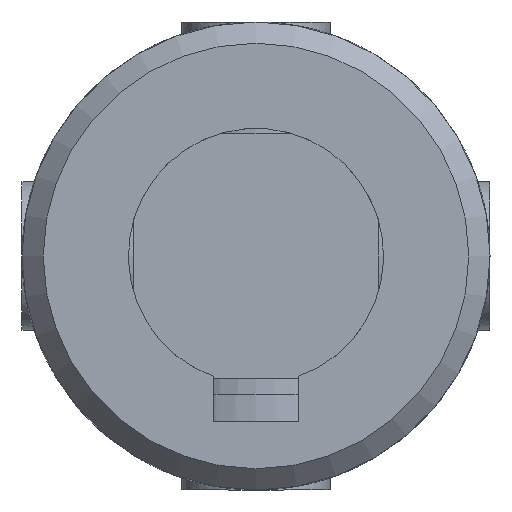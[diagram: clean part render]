
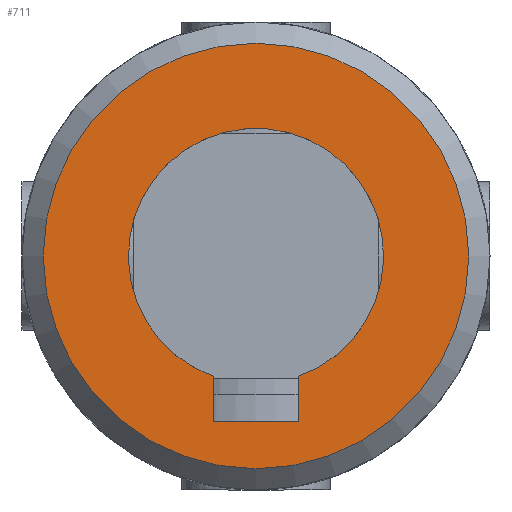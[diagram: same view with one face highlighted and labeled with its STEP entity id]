
A CAD part, front view. The second image highlights one B-rep face of the part: STEP entity #711.
In plain terms, the highlighted planar face has unit normal (0, -1, 0).
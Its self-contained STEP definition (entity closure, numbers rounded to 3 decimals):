
#81=LINE('',#1092,#112);
#85=LINE('',#1164,#116);
#86=LINE('',#1167,#117);
#112=VECTOR('',#891,2.143);
#116=VECTOR('',#901,4.);
#117=VECTOR('',#906,2.143);
#143=PLANE('',#779);
#168=FACE_BOUND('',#255,.T.);
#195=FACE_OUTER_BOUND('',#254,.T.);
#254=EDGE_LOOP('',(#572));
#255=EDGE_LOOP('',(#573,#574,#575,#576));
#293=CIRCLE('',#765,6.);
#300=CIRCLE('',#777,10.);
#337=VERTEX_POINT('',#1089);
#338=VERTEX_POINT('',#1091);
#342=VERTEX_POINT('',#1146);
#344=VERTEX_POINT('',#1162);
#350=VERTEX_POINT('',#1213);
#409=EDGE_CURVE('',#338,#337,#81,.T.);
#414=EDGE_CURVE('',#342,#338,#293,.T.);
#418=EDGE_CURVE('',#337,#344,#85,.T.);
#420=EDGE_CURVE('',#344,#342,#86,.T.);
#428=EDGE_CURVE('',#350,#350,#300,.T.);
#572=ORIENTED_EDGE('',*,*,#428,.F.);
#573=ORIENTED_EDGE('',*,*,#409,.T.);
#574=ORIENTED_EDGE('',*,*,#418,.T.);
#575=ORIENTED_EDGE('',*,*,#420,.T.);
#576=ORIENTED_EDGE('',*,*,#414,.T.);
#711=ADVANCED_FACE('',(#195,#168),#143,.F.);
#765=AXIS2_PLACEMENT_3D('',#1147,#895,#896);
#777=AXIS2_PLACEMENT_3D('',#1214,#923,#924);
#779=AXIS2_PLACEMENT_3D('',#1390,#931,#932);
#891=DIRECTION('',(0.,0.,-1.));
#895=DIRECTION('center_axis',(0.,1.,0.));
#896=DIRECTION('ref_axis',(-0.333,0.,0.943));
#901=DIRECTION('',(-1.,0.,0.));
#906=DIRECTION('',(0.,0.,1.));
#923=DIRECTION('center_axis',(0.,1.,0.));
#924=DIRECTION('ref_axis',(1.,0.,0.));
#931=DIRECTION('center_axis',(0.,1.,0.));
#932=DIRECTION('ref_axis',(0.,0.,1.));
#1089=CARTESIAN_POINT('',(2.,-36.5,-7.8));
#1091=CARTESIAN_POINT('',(2.,-36.5,-5.657));
#1092=CARTESIAN_POINT('',(2.,-36.5,-2.828));
#1146=CARTESIAN_POINT('',(-2.,-36.5,-5.657));
#1147=CARTESIAN_POINT('Origin',(0.,-36.5,0.));
#1162=CARTESIAN_POINT('',(-2.,-36.5,-7.8));
#1164=CARTESIAN_POINT('',(1.,-36.5,-7.8));
#1167=CARTESIAN_POINT('',(-2.,-36.5,-3.9));
#1213=CARTESIAN_POINT('',(-10.,-36.5,0.));
#1214=CARTESIAN_POINT('Origin',(0.,-36.5,0.));
#1390=CARTESIAN_POINT('Origin',(0.,-36.5,0.));
